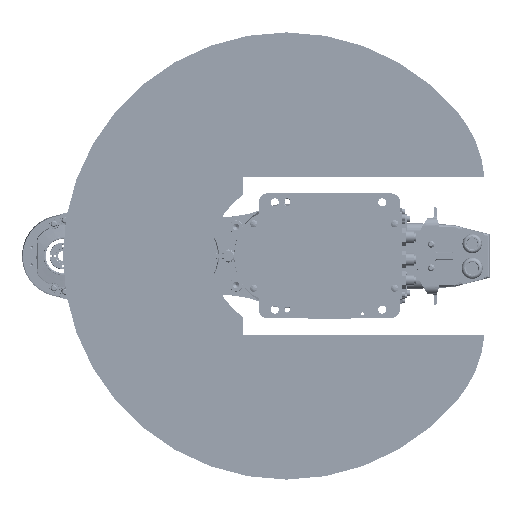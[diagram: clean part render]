
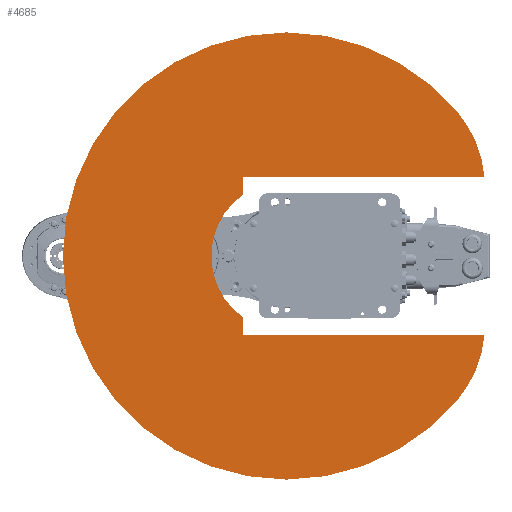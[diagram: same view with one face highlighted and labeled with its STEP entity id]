
A CAD part, front view. The second image highlights one B-rep face of the part: STEP entity #4685.
In plain terms, the highlighted planar face has unit normal (0, -1, 0).
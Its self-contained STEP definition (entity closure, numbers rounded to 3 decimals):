
#4685 = ADVANCED_FACE( '', ( #12940 ), #12941, .F. );
#12940 = FACE_OUTER_BOUND( '', #26190, .T. );
#12941 = PLANE( '', #26191 );
#26190 = EDGE_LOOP( '', ( #42449, #42450, #42451, #42452, #42453, #42454, #42455, #42456 ) );
#26191 = AXIS2_PLACEMENT_3D( '', #42457, #42458, #42459 );
#42449 = ORIENTED_EDGE( '', *, *, #74104, .T. );
#42450 = ORIENTED_EDGE( '', *, *, #74105, .F. );
#42451 = ORIENTED_EDGE( '', *, *, #74106, .F. );
#42452 = ORIENTED_EDGE( '', *, *, #74107, .F. );
#42453 = ORIENTED_EDGE( '', *, *, #74108, .T. );
#42454 = ORIENTED_EDGE( '', *, *, #74109, .T. );
#42455 = ORIENTED_EDGE( '', *, *, #74110, .T. );
#42456 = ORIENTED_EDGE( '', *, *, #74111, .T. );
#42457 = CARTESIAN_POINT( '', ( 38.567, 0., 45.963 ) );
#42458 = DIRECTION( '', ( 0., 1., 0. ) );
#42459 = DIRECTION( '', ( 0., 0., 1. ) );
#74104 = EDGE_CURVE( '', #87847, #87848, #87849, .T. );
#74105 = EDGE_CURVE( '', #87850, #87848, #87851, .T. );
#74106 = EDGE_CURVE( '', #87852, #87850, #87853, .T. );
#74107 = EDGE_CURVE( '', #87854, #87852, #87855, .T. );
#74108 = EDGE_CURVE( '', #87854, #87856, #87857, .T. );
#74109 = EDGE_CURVE( '', #87856, #87858, #87859, .T. );
#74110 = EDGE_CURVE( '', #87858, #87860, #87861, .T. );
#74111 = EDGE_CURVE( '', #87860, #87847, #87862, .T. );
#87847 = VERTEX_POINT( '', #108208 );
#87848 = VERTEX_POINT( '', #108209 );
#87849 = LINE( '', #108210, #108211 );
#87850 = VERTEX_POINT( '', #108212 );
#87851 = CIRCLE( '', #108213, 130. );
#87852 = VERTEX_POINT( '', #108214 );
#87853 = CIRCLE( '', #108215, 250. );
#87854 = VERTEX_POINT( '', #108216 );
#87855 = CIRCLE( '', #108217, 130. );
#87856 = VERTEX_POINT( '', #108218 );
#87857 = LINE( '', #108219, #108220 );
#87858 = VERTEX_POINT( '', #108221 );
#87859 = LINE( '', #108222, #108223 );
#87860 = VERTEX_POINT( '', #108224 );
#87861 = CIRCLE( '', #108225, 84. );
#87862 = LINE( '', #108226, #108227 );
#108208 = CARTESIAN_POINT( '', ( -88., 0., -49. ) );
#108209 = CARTESIAN_POINT( '', ( -88., 0., 221.47 ) );
#108210 = CARTESIAN_POINT( '', ( -88., 0., -49. ) );
#108211 = VECTOR( '', #136688, 1000. );
#108212 = CARTESIAN_POINT( '', ( -160.697, 0., 191.511 ) );
#108213 = AXIS2_PLACEMENT_3D( '', #136689, #136690, #136691 );
#108214 = CARTESIAN_POINT( '', ( 160.697, 0., 191.511 ) );
#108215 = AXIS2_PLACEMENT_3D( '', #136692, #136693, #136694 );
#108216 = CARTESIAN_POINT( '', ( 88., 0., 221.47 ) );
#108217 = AXIS2_PLACEMENT_3D( '', #136695, #136696, #136697 );
#108218 = CARTESIAN_POINT( '', ( 88., 0., -49. ) );
#108219 = CARTESIAN_POINT( '', ( 88., 0., 351. ) );
#108220 = VECTOR( '', #136698, 1000. );
#108221 = CARTESIAN_POINT( '', ( 68.228, 0., -49. ) );
#108222 = CARTESIAN_POINT( '', ( 88., 0., -49. ) );
#108223 = VECTOR( '', #136699, 1000. );
#108224 = CARTESIAN_POINT( '', ( -68.228, 0., -49. ) );
#108225 = AXIS2_PLACEMENT_3D( '', #136700, #136701, #136702 );
#108226 = CARTESIAN_POINT( '', ( 88., 0., -49. ) );
#108227 = VECTOR( '', #136703, 1000. );
#136688 = DIRECTION( '', ( 0., 0., 1. ) );
#136689 = CARTESIAN_POINT( '', ( -77.135, 0., 91.925 ) );
#136690 = DIRECTION( '', ( 0., 1., 0. ) );
#136691 = DIRECTION( '', ( 1., 0., 0. ) );
#136692 = CARTESIAN_POINT( '', ( 0., 0., 0. ) );
#136693 = DIRECTION( '', ( 0., 1., 0. ) );
#136694 = DIRECTION( '', ( 1., 0., 0. ) );
#136695 = CARTESIAN_POINT( '', ( 77.135, 0., 91.925 ) );
#136696 = DIRECTION( '', ( 0., 1., 0. ) );
#136697 = DIRECTION( '', ( 1., 0., 0. ) );
#136698 = DIRECTION( '', ( 0., 0., -1. ) );
#136699 = DIRECTION( '', ( -1., 0., 0. ) );
#136700 = CARTESIAN_POINT( '', ( 0., 0., 0. ) );
#136701 = DIRECTION( '', ( 0., 1., 0. ) );
#136702 = DIRECTION( '', ( 1., 0., 0. ) );
#136703 = DIRECTION( '', ( -1., 0., 0. ) );
